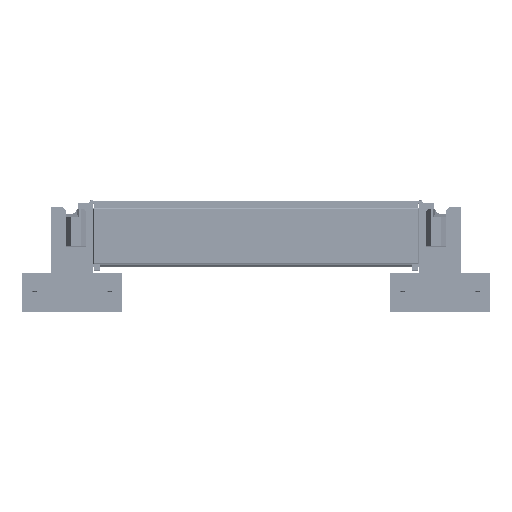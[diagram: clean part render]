
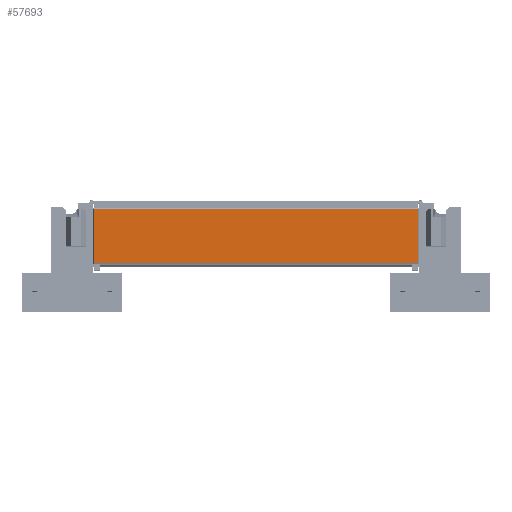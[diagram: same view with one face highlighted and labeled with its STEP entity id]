
A CAD part, top view. The second image highlights one B-rep face of the part: STEP entity #57693.
In plain terms, the highlighted planar face has unit normal (0, 0, 1) as drawn and (0, 0, -1) by its records, which use the part's own axes.
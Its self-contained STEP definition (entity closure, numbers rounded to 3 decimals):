
#8656 = EDGE_CURVE ( 'NONE', #48895, #48898, #65953, .T. ) ;
#8660 = EDGE_CURVE ( 'NONE', #48898, #48899, #65957, .T. ) ;
#8664 = EDGE_CURVE ( 'NONE', #48899, #48918, #65959, .T. ) ;
#8668 = EDGE_CURVE ( 'NONE', #48918, #48895, #65963, .T. ) ;
#25201 = CARTESIAN_POINT ( 'NONE',  ( 1296., 221., 0. ) ) ;
#25204 = CARTESIAN_POINT ( 'NONE',  ( 1296., 4., 0. ) ) ;
#25205 = CARTESIAN_POINT ( 'NONE',  ( 4., 4., 0. ) ) ;
#25224 = CARTESIAN_POINT ( 'NONE',  ( 4., 221., 0. ) ) ;
#46776 = EDGE_LOOP ( 'NONE', ( #85814, #85818, #85714, #85722 ) ) ;
#48895 = VERTEX_POINT ( 'NONE', #25201 ) ;
#48898 = VERTEX_POINT ( 'NONE', #25204 ) ;
#48899 = VERTEX_POINT ( 'NONE', #25205 ) ;
#48918 = VERTEX_POINT ( 'NONE', #25224 ) ;
#57693 = ADVANCED_FACE ( 'NONE', ( #72259 ), #91670, .T. ) ;
#65077 = CARTESIAN_POINT ( 'NONE',  ( 1296., 222.293, 0. ) ) ;
#65078 = DIRECTION ( 'NONE',  ( 0., -1., 0. ) ) ;
#65081 = CARTESIAN_POINT ( 'NONE',  ( 1297.293, 4., 0. ) ) ;
#65082 = DIRECTION ( 'NONE',  ( -1., 0., 0. ) ) ;
#65087 = CARTESIAN_POINT ( 'NONE',  ( 4., 2.707, 0. ) ) ;
#65088 = DIRECTION ( 'NONE',  ( 0., 1., 0. ) ) ;
#65091 = CARTESIAN_POINT ( 'NONE',  ( 2.707, 221., 0. ) ) ;
#65092 = DIRECTION ( 'NONE',  ( 1., 0., 0. ) ) ;
#65953 = LINE ( 'NONE', #65077, #65954 ) ;
#65954 = VECTOR ( 'NONE', #65078, 1000. ) ;
#65957 = LINE ( 'NONE', #65081, #65958 ) ;
#65958 = VECTOR ( 'NONE', #65082, 1000. ) ;
#65959 = LINE ( 'NONE', #65087, #65960 ) ;
#65960 = VECTOR ( 'NONE', #65088, 1000. ) ;
#65963 = LINE ( 'NONE', #65091, #65964 ) ;
#65964 = VECTOR ( 'NONE', #65092, 1000. ) ;
#72259 = FACE_OUTER_BOUND ( 'NONE', #46776, .T. ) ;
#85714 = ORIENTED_EDGE ( 'NONE', *, *, #8664, .T. ) ;
#85722 = ORIENTED_EDGE ( 'NONE', *, *, #8668, .T. ) ;
#85814 = ORIENTED_EDGE ( 'NONE', *, *, #8656, .T. ) ;
#85818 = ORIENTED_EDGE ( 'NONE', *, *, #8660, .T. ) ;
#86357 = AXIS2_PLACEMENT_3D ( 'NONE', #91671, #91672, #91673 ) ;
#91670 = PLANE ( 'NONE',  #86357 ) ;
#91671 = CARTESIAN_POINT ( 'NONE',  ( 0., 225., 0. ) ) ;
#91672 = DIRECTION ( 'NONE',  ( 0., 0., -1. ) ) ;
#91673 = DIRECTION ( 'NONE',  ( -1., 0., 0. ) ) ;
